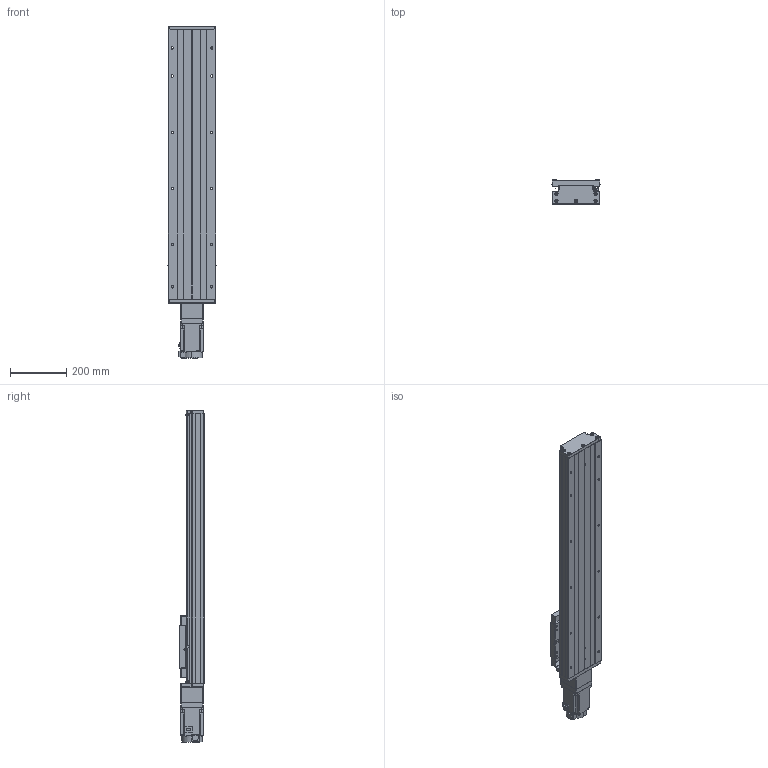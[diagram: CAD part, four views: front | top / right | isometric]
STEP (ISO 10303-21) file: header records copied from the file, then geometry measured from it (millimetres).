
FILE_DESCRIPTION (( 'STEP AP203' ), '1' );
FILE_NAME ('GTH17-700-BC-M75-C4.step', '2023-06-30T11:22:43', ( '微软用户' ), ( '微软中国' ), 'SwSTEP 2.0', 'SolidWorks 2020', '' );
FILE_SCHEMA (( 'CONFIG_CONTROL_DESIGN' ));
Length unit declared in the file: millimetre
Products named in the file (20): CTHA60-016; GBT 70.3-M3℅8; GTH17-002_GTH17-002; GBT 70.1-M3℅5; GTH17-006-2_M75; GTH17-004; GBT77-2000 M3×3; GTH17-013; GTH17-005; GBT 70.1-M6¡Á20_M6¡Á20; GTH17-027-1; GB1155-6X6; GTH17-031; HG-KN73J-S100; CTHA60-017; GBT 70.2-M3¡Á5_M3¡Á6; GTH17-700-BC-M75-C4; EE_SX911P_R; す晦芛蹟隊 M3℅5; GTH17-001_700
Assembly tree (57 placements, depth 2):
  GTH17-700-BC-M75-C4
    GTH17-001_700
    GTH17-002_GTH17-002
    GTH17-004
    GTH17-005
    GB1155-6X6  x2
    CTHA60-017  x3
    EE_SX911P_R  x3
    CTHA60-016  x2
    GBT 70.1-M3℅5  x6
    GBT77-2000 M3×3  x6
    GBT 70.1-M6¡Á20_M6¡Á20  x10
    GTH17-031
    GBT 70.2-M3¡Á5_M3¡Á6  x8
    す晦芛蹟隊 M3℅5  x6
    GBT 70.3-M3℅8  x2
    GTH17-006-2_M75
    GTH17-013
    GTH17-027-1
    HG-KN73J-S100
Bounding box: 171 x 87 x 1181.2 mm (x, y, z)
Volume: 8914556.4 mm3; surface area: 1160330.5 mm2
Topology: 60 solids, 60 shells, 2414 faces, 5773 edges, 3579 vertices
Faces by surface type: plane 1305, cylinder 662, cone 287, torus 120, sphere 20, bspline 20
Entity records: 45145 total; most frequent: CARTESIAN_POINT 10427, DIRECTION 6537, ORIENTED_EDGE 6462, EDGE_CURVE 3231, AXIS2_PLACEMENT_3D 2223, VECTOR 2091, LINE 2091, VERTEX_POINT 2047
